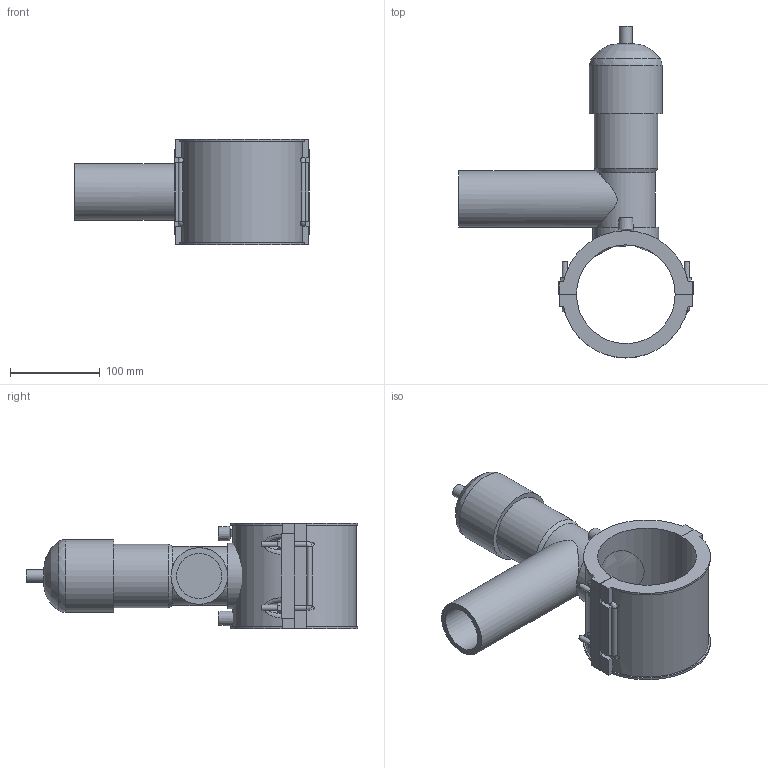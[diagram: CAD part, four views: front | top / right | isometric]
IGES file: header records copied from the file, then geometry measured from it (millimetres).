
Global section: file name: 495404110063.ipt; native system: Autodesk Inventor 2015; preprocessor: unknown; author: KIM; date: 20171106.094249; units: millimetre
Bounding box: 261 x 369.81 x 118 mm (x, y, z)
Volume: 1731095.5 mm3; surface area: 248953.5 mm2
Topology: 3 solids, 5 shells, 157 faces, 393 edges, 249 vertices
Faces by surface type: plane 93, cylinder 29, revolution 16, bspline 12, cone 7
Full cylindrical faces by diameter (mm): 4 x2, 6 x8, 14.64 x1, 63 x1, 70.76 x1, 73.2 x1, 81.333 x1
